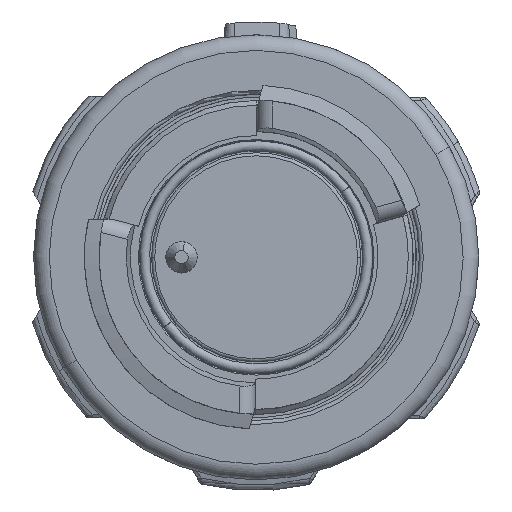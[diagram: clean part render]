
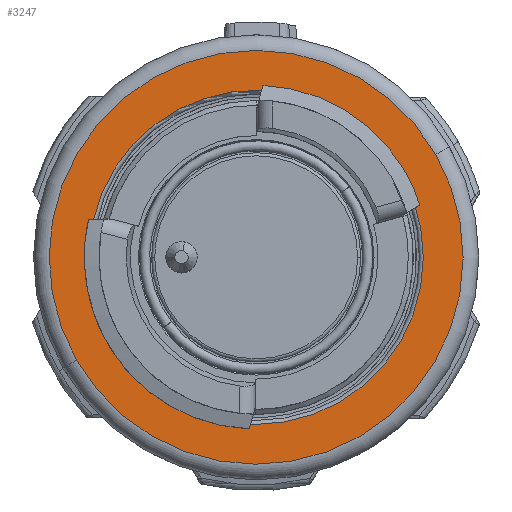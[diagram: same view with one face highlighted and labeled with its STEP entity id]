
A CAD part, top view. The second image highlights one B-rep face of the part: STEP entity #3247.
In plain terms, the highlighted planar face has unit normal (0, 0, 1).
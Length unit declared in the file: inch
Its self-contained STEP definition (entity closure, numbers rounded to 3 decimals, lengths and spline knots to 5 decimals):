
#501 = EDGE_CURVE ( 'NONE', #24485, #23628, #18068, .T. ) ;
#523 = DIRECTION ( 'NONE',  ( 0., 0., 1. ) ) ;
#531 = AXIS2_PLACEMENT_3D ( 'NONE', #29676, #5241, #39826 ) ;
#1550 = DIRECTION ( 'NONE',  ( 0., 0., 1. ) ) ;
#1554 = LINE ( 'NONE', #25766, #3574 ) ;
#1755 = DIRECTION ( 'NONE',  ( 0.868, 0.497, 0. ) ) ;
#1857 = CARTESIAN_POINT ( 'NONE',  ( 0., 0., -0.26772 ) ) ;
#2319 = CARTESIAN_POINT ( 'NONE',  ( -0.36327, -0.2082, -0.26772 ) ) ;
#2684 = DIRECTION ( 'NONE',  ( 0.868, 0.497, 0. ) ) ;
#3247 = ADVANCED_FACE ( 'NONE', ( #42675, #35686 ), #22394, .T. ) ;
#3574 = VECTOR ( 'NONE', #4507, 39.37008 ) ;
#4507 = DIRECTION ( 'NONE',  ( -1., -0.004, 0. ) ) ;
#4809 = CIRCLE ( 'NONE', #27212, 0.4187 ) ;
#5101 = VERTEX_POINT ( 'NONE', #10542 ) ;
#5241 = DIRECTION ( 'NONE',  ( 0., 0., 1. ) ) ;
#5364 = AXIS2_PLACEMENT_3D ( 'NONE', #12814, #1550, #1755 ) ;
#6022 = CARTESIAN_POINT ( 'NONE',  ( -0.40611, -0.10191, -0.26772 ) ) ;
#6254 = CARTESIAN_POINT ( 'NONE',  ( 0.36327, 0.2082, -0.26772 ) ) ;
#8247 = CARTESIAN_POINT ( 'NONE',  ( -0.41429, -0.08484, -0.26772 ) ) ;
#9518 = DIRECTION ( 'NONE',  ( 0.868, 0.497, 0. ) ) ;
#10078 = AXIS2_PLACEMENT_3D ( 'NONE', #1857, #15271, #29028 ) ;
#10542 = CARTESIAN_POINT ( 'NONE',  ( -0.40776, 0.0951, -0.26772 ) ) ;
#12172 = EDGE_LOOP ( 'NONE', ( #16288, #16977, #43144, #43741, #40666, #23511 ) ) ;
#12375 = EDGE_CURVE ( 'NONE', #29759, #21466, #14265, .T. ) ;
#12800 = EDGE_CURVE ( 'NONE', #33959, #26761, #35186, .T. ) ;
#12814 = CARTESIAN_POINT ( 'NONE',  ( 0., 0., -0.26772 ) ) ;
#12816 = AXIS2_PLACEMENT_3D ( 'NONE', #25628, #15482, #15058 ) ;
#14265 = CIRCLE ( 'NONE', #37349, 0.5185 ) ;
#14911 = EDGE_LOOP ( 'NONE', ( #30037, #15595 ) ) ;
#15058 = DIRECTION ( 'NONE',  ( 0.868, 0.497, 0. ) ) ;
#15271 = DIRECTION ( 'NONE',  ( 0., 0., 1. ) ) ;
#15482 = DIRECTION ( 'NONE',  ( 0., 0., 1. ) ) ;
#15595 = ORIENTED_EDGE ( 'NONE', *, *, #12375, .T. ) ;
#15894 = EDGE_CURVE ( 'NONE', #5101, #24485, #1554, .T. ) ;
#16288 = ORIENTED_EDGE ( 'NONE', *, *, #15894, .F. ) ;
#16977 = ORIENTED_EDGE ( 'NONE', *, *, #29503, .F. ) ;
#18068 = CIRCLE ( 'NONE', #10078, 0.42289 ) ;
#18237 = CARTESIAN_POINT ( 'NONE',  ( 0., 0., -0.26772 ) ) ;
#18489 = AXIS2_PLACEMENT_3D ( 'NONE', #18237, #523, #20709 ) ;
#19920 = DIRECTION ( 'NONE',  ( 0., 0., 1. ) ) ;
#20025 = CARTESIAN_POINT ( 'NONE',  ( -0.41429, -0.08484, -0.26772 ) ) ;
#20155 = CARTESIAN_POINT ( 'NONE',  ( 0., 0., -0.26772 ) ) ;
#20709 = DIRECTION ( 'NONE',  ( 0.868, 0.497, 0. ) ) ;
#20784 = B_SPLINE_CURVE_WITH_KNOTS ( 'NONE', 3,
 ( #43060, #25945, #39709, #20025 ),
 .UNSPECIFIED., .F., .F.,
 ( 4, 4 ),
 ( 0.00294, 0.00342 ),
 .UNSPECIFIED. ) ;
#21376 = EDGE_CURVE ( 'NONE', #21466, #29759, #30889, .T. ) ;
#21466 = VERTEX_POINT ( 'NONE', #32843 ) ;
#22394 = PLANE ( 'NONE',  #5364 ) ;
#23511 = ORIENTED_EDGE ( 'NONE', *, *, #501, .F. ) ;
#23628 = VERTEX_POINT ( 'NONE', #8247 ) ;
#24485 = VERTEX_POINT ( 'NONE', #29303 ) ;
#24988 = CARTESIAN_POINT ( 'NONE',  ( -0.44986, -0.25783, -0.26772 ) ) ;
#25628 = CARTESIAN_POINT ( 'NONE',  ( 0., 0., -0.26772 ) ) ;
#25766 = CARTESIAN_POINT ( 'NONE',  ( -0.36167, 0.09529, -0.26772 ) ) ;
#25945 = CARTESIAN_POINT ( 'NONE',  ( -0.40896, -0.09628, -0.26772 ) ) ;
#26761 = VERTEX_POINT ( 'NONE', #6254 ) ;
#27212 = AXIS2_PLACEMENT_3D ( 'NONE', #44486, #34128, #9518 ) ;
#29028 = DIRECTION ( 'NONE',  ( 0., -1., 0. ) ) ;
#29303 = CARTESIAN_POINT ( 'NONE',  ( -0.41206, 0.09508, -0.26772 ) ) ;
#29503 = EDGE_CURVE ( 'NONE', #26761, #5101, #4809, .T. ) ;
#29676 = CARTESIAN_POINT ( 'NONE',  ( 0., 0., -0.26772 ) ) ;
#29759 = VERTEX_POINT ( 'NONE', #24988 ) ;
#30037 = ORIENTED_EDGE ( 'NONE', *, *, #21376, .T. ) ;
#30889 = CIRCLE ( 'NONE', #531, 0.5185 ) ;
#32843 = CARTESIAN_POINT ( 'NONE',  ( 0.44986, 0.25783, -0.26772 ) ) ;
#33959 = VERTEX_POINT ( 'NONE', #2319 ) ;
#34128 = DIRECTION ( 'NONE',  ( 0., 0., 1. ) ) ;
#35186 = CIRCLE ( 'NONE', #12816, 0.4187 ) ;
#35217 = VERTEX_POINT ( 'NONE', #6022 ) ;
#35686 = FACE_OUTER_BOUND ( 'NONE', #14911, .T. ) ;
#37349 = AXIS2_PLACEMENT_3D ( 'NONE', #20155, #19920, #2684 ) ;
#38356 = EDGE_CURVE ( 'NONE', #35217, #33959, #44366, .T. ) ;
#39709 = CARTESIAN_POINT ( 'NONE',  ( -0.41169, -0.09059, -0.26772 ) ) ;
#39826 = DIRECTION ( 'NONE',  ( 0.868, 0.497, 0. ) ) ;
#40666 = ORIENTED_EDGE ( 'NONE', *, *, #44641, .T. ) ;
#42675 = FACE_BOUND ( 'NONE', #12172, .T. ) ;
#43060 = CARTESIAN_POINT ( 'NONE',  ( -0.40611, -0.10191, -0.26772 ) ) ;
#43144 = ORIENTED_EDGE ( 'NONE', *, *, #12800, .F. ) ;
#43741 = ORIENTED_EDGE ( 'NONE', *, *, #38356, .F. ) ;
#44366 = CIRCLE ( 'NONE', #18489, 0.4187 ) ;
#44486 = CARTESIAN_POINT ( 'NONE',  ( 0., 0., -0.26772 ) ) ;
#44641 = EDGE_CURVE ( 'NONE', #35217, #23628, #20784, .T. ) ;
